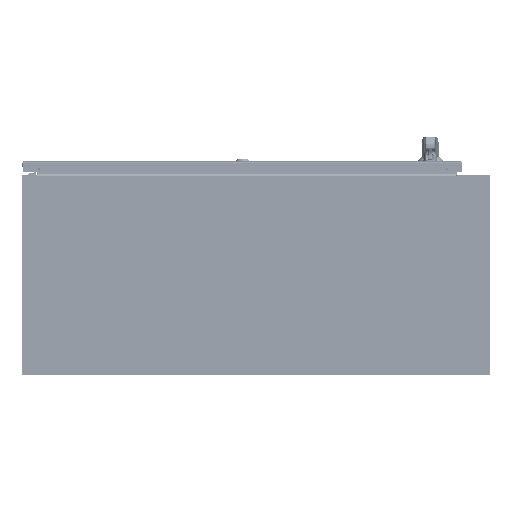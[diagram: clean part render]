
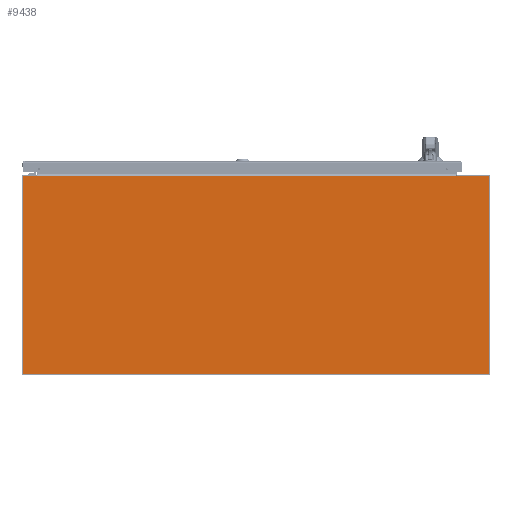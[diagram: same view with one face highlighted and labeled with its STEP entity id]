
A CAD part, front view. The second image highlights one B-rep face of the part: STEP entity #9438.
In plain terms, the highlighted planar face has unit normal (0, -1, 0).
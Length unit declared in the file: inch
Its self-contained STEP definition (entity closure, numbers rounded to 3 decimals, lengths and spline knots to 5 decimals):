
#8221=CARTESIAN_POINT('',(-18.5445,0.,7.857));
#8222=DIRECTION('',(0.,-1.,0.));
#8223=DIRECTION('',(0.,0.,1.));
#8224=AXIS2_PLACEMENT_3D('',#8221,#8222,#8223);
#8229=DIRECTION('',(-1.,0.,0.));
#8230=VECTOR('',#8229,1.03388);
#8231=CARTESIAN_POINT('',(-17.51062,0.,7.937));
#8232=LINE('',#8231,#8230);
#8236=DIRECTION('',(0.174,0.,-0.985));
#8237=VECTOR('',#8236,0.05483);
#8238=CARTESIAN_POINT('',(-17.51062,0.,7.937));
#8239=LINE('',#8238,#8237);
#8243=DIRECTION('',(-1.,0.,0.));
#8244=VECTOR('',#8243,0.0156);
#8245=CARTESIAN_POINT('',(-17.4855,0.,7.883));
#8246=LINE('',#8245,#8244);
#8250=DIRECTION('',(1.,0.,0.));
#8251=VECTOR('',#8250,0.0156);
#8252=CARTESIAN_POINT('',(15.9855,0.,7.883));
#8253=LINE('',#8252,#8251);
#8257=DIRECTION('',(-0.174,0.,-0.985));
#8258=VECTOR('',#8257,0.05483);
#8259=CARTESIAN_POINT('',(16.01062,0.,7.937));
#8260=LINE('',#8259,#8258);
#8264=DIRECTION('',(-1.,0.,0.));
#8265=VECTOR('',#8264,2.53388);
#8266=CARTESIAN_POINT('',(18.5445,0.,7.937));
#8267=LINE('',#8266,#8265);
#8271=CARTESIAN_POINT('',(18.5445,0.,7.857));
#8272=DIRECTION('',(0.,-1.,0.));
#8273=DIRECTION('',(1.,0.,0.));
#8274=AXIS2_PLACEMENT_3D('',#8271,#8272,#8273);
#8279=DIRECTION('',(0.,0.,1.));
#8280=VECTOR('',#8279,15.714);
#8281=CARTESIAN_POINT('',(18.6245,0.,-7.857));
#8282=LINE('',#8281,#8280);
#8286=CARTESIAN_POINT('',(18.5445,0.,-7.857));
#8287=DIRECTION('',(0.,-1.,0.));
#8288=DIRECTION('',(0.,0.,-1.));
#8289=AXIS2_PLACEMENT_3D('',#8286,#8287,#8288);
#8294=DIRECTION('',(1.,0.,0.));
#8295=VECTOR('',#8294,37.089);
#8296=CARTESIAN_POINT('',(-18.5445,0.,-7.937));
#8297=LINE('',#8296,#8295);
#8301=CARTESIAN_POINT('',(-18.5445,0.,-7.857));
#8302=DIRECTION('',(0.,-1.,0.));
#8303=DIRECTION('',(-1.,0.,0.));
#8304=AXIS2_PLACEMENT_3D('',#8301,#8302,#8303);
#8309=DIRECTION('',(0.,0.,-1.));
#8310=VECTOR('',#8309,15.714);
#8311=CARTESIAN_POINT('',(-18.6245,0.,7.857));
#8312=LINE('',#8311,#8310);
#8590=DIRECTION('',(1.,0.,0.));
#8591=VECTOR('',#8590,33.471);
#8592=CARTESIAN_POINT('',(-17.4855,0.,7.883));
#8593=LINE('',#8592,#8591);
#9251=CARTESIAN_POINT('',(15.9855,0.,7.883));
#9252=CARTESIAN_POINT('',(16.0011,0.,7.883));
#9253=VERTEX_POINT('',#9251);
#9254=VERTEX_POINT('',#9252);
#9255=CARTESIAN_POINT('',(16.01062,0.,7.937));
#9256=VERTEX_POINT('',#9255);
#9263=CARTESIAN_POINT('',(-17.4855,0.,7.883));
#9264=CARTESIAN_POINT('',(-17.5011,0.,7.883));
#9265=VERTEX_POINT('',#9263);
#9266=VERTEX_POINT('',#9264);
#9267=CARTESIAN_POINT('',(-17.51062,0.,7.937));
#9268=VERTEX_POINT('',#9267);
#9331=CARTESIAN_POINT('',(-18.5445,0.,7.937));
#9332=CARTESIAN_POINT('',(-18.6245,0.,7.857));
#9333=VERTEX_POINT('',#9331);
#9334=VERTEX_POINT('',#9332);
#9339=CARTESIAN_POINT('',(-18.6245,0.,-7.857));
#9340=CARTESIAN_POINT('',(-18.5445,0.,-7.937));
#9341=VERTEX_POINT('',#9339);
#9342=VERTEX_POINT('',#9340);
#9347=CARTESIAN_POINT('',(18.5445,0.,-7.937));
#9348=CARTESIAN_POINT('',(18.6245,0.,-7.857));
#9349=VERTEX_POINT('',#9347);
#9350=VERTEX_POINT('',#9348);
#9355=CARTESIAN_POINT('',(18.6245,0.,7.857));
#9356=CARTESIAN_POINT('',(18.5445,0.,7.937));
#9357=VERTEX_POINT('',#9355);
#9358=VERTEX_POINT('',#9356);
#9403=CARTESIAN_POINT('',(0.,0.,0.));
#9404=DIRECTION('',(0.,-1.,0.));
#9405=DIRECTION('',(-1.,0.,0.));
#9406=AXIS2_PLACEMENT_3D('',#9403,#9404,#9405);
#9407=PLANE('',#9406);
#9409=ORIENTED_EDGE('',*,*,#9408,.F.);
#9411=ORIENTED_EDGE('',*,*,#9410,.F.);
#9413=ORIENTED_EDGE('',*,*,#9412,.T.);
#9415=ORIENTED_EDGE('',*,*,#9414,.F.);
#9417=ORIENTED_EDGE('',*,*,#9416,.T.);
#9419=ORIENTED_EDGE('',*,*,#9418,.T.);
#9421=ORIENTED_EDGE('',*,*,#9420,.F.);
#9423=ORIENTED_EDGE('',*,*,#9422,.F.);
#9425=ORIENTED_EDGE('',*,*,#9424,.F.);
#9427=ORIENTED_EDGE('',*,*,#9426,.F.);
#9429=ORIENTED_EDGE('',*,*,#9428,.F.);
#9431=ORIENTED_EDGE('',*,*,#9430,.F.);
#9433=ORIENTED_EDGE('',*,*,#9432,.F.);
#9435=ORIENTED_EDGE('',*,*,#9434,.F.);
#9436=EDGE_LOOP('',(#9409,#9411,#9413,#9415,#9417,#9419,#9421,#9423,#9425,#9427,
#9429,#9431,#9433,#9435));
#9437=FACE_OUTER_BOUND('',#9436,.F.);
#8225=CIRCLE('',#8224,0.08);
#8275=CIRCLE('',#8274,0.08);
#8290=CIRCLE('',#8289,0.08);
#8305=CIRCLE('',#8304,0.08);
#9408=EDGE_CURVE('',#9333,#9334,#8225,.T.);
#9410=EDGE_CURVE('',#9268,#9333,#8232,.T.);
#9412=EDGE_CURVE('',#9268,#9266,#8239,.T.);
#9414=EDGE_CURVE('',#9265,#9266,#8246,.T.);
#9416=EDGE_CURVE('',#9265,#9253,#8593,.T.);
#9418=EDGE_CURVE('',#9253,#9254,#8253,.T.);
#9420=EDGE_CURVE('',#9256,#9254,#8260,.T.);
#9422=EDGE_CURVE('',#9358,#9256,#8267,.T.);
#9424=EDGE_CURVE('',#9357,#9358,#8275,.T.);
#9426=EDGE_CURVE('',#9350,#9357,#8282,.T.);
#9428=EDGE_CURVE('',#9349,#9350,#8290,.T.);
#9430=EDGE_CURVE('',#9342,#9349,#8297,.T.);
#9432=EDGE_CURVE('',#9341,#9342,#8305,.T.);
#9434=EDGE_CURVE('',#9334,#9341,#8312,.T.);
#9438=ADVANCED_FACE('',(#9437),#9407,.T.);
